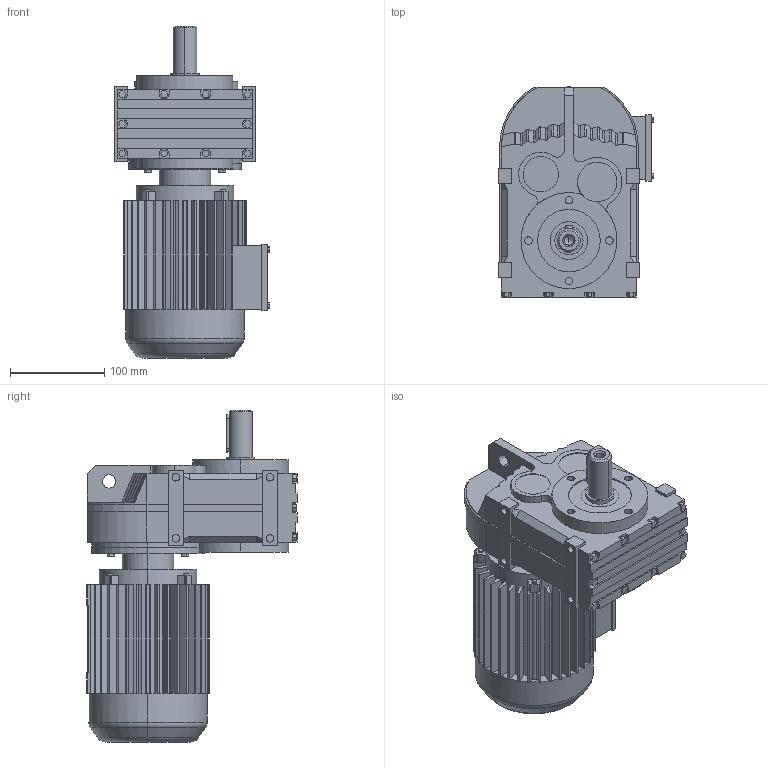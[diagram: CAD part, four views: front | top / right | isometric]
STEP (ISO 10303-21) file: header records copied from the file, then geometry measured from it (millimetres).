
FILE_DESCRIPTION(('Open CASCADE Model'),'2;1');
FILE_NAME('Open CASCADE Shape Model','2021-07-14T17:11:11',('Author'),( 'Open CASCADE'),'Open CASCADE STEP processor 6.3','Open CASCADE 6.3' ,'Unknown');
FILE_SCHEMA(('AUTOMOTIVE_DESIGN_CC2 { 1 2 10303 214 -1 1 5 4 }'));
Length unit declared in the file: millimetre
Products named in the file (4): 1_F27-Y63S; FA27‵157_27.step; 萇儂_120_Y63S.step; す瑩妗陑粣F_27.step
Assembly tree (3 placements, depth 2):
  1_F27-Y63S
    FA27‵157_27.step
    萇儂_120_Y63S.step
    す瑩妗陑粣F_27.step
Bounding box: 165 x 223.7 x 353 mm (x, y, z)
Volume: 4604908.4 mm3; surface area: 382240.5 mm2
Topology: 3 solids, 3 shells, 781 faces, 2068 edges, 1342 vertices
Faces by surface type: plane 562, cylinder 191, bspline 16, cone 8, torus 4
Entity records: 52627 total; most frequent: CARTESIAN_POINT 12976, DIRECTION 6937, ORIENTED_EDGE 4132, PCURVE 4132, DEFINITIONAL_REPRESENTATION 4132, LINE 3935, VECTOR 3935, EDGE_CURVE 2066
